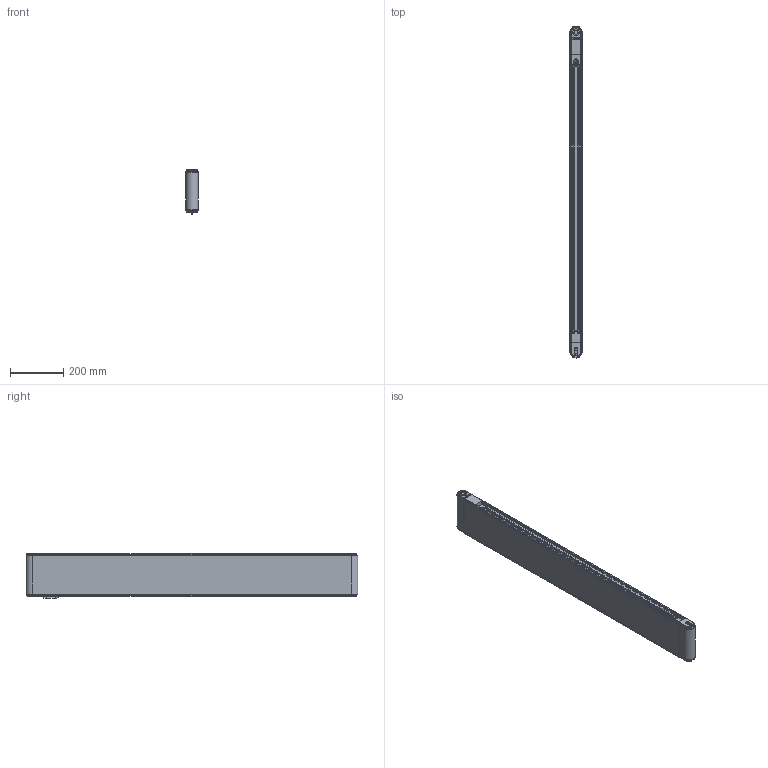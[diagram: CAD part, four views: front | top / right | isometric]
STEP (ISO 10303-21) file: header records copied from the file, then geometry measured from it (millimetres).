
FILE_DESCRIPTION(/* description */ (''),/* implementation_level */ '2;1');
FILE_NAME(/* name */ 'G:\DATEN\CAD\Förderband\Marketing\3D-Modelle (Standard)\FR-40-160\FR-40-160-1200-K.stp',/* time_stamp */ '2019-05-08T09:10:03+02:00',/* author */ ('melanie.ochs'),/* organization */ (''),/* preprocessor_version */ 'ST-DEVELOPER v17',/* originating_system */ 'Autodesk Inventor 2019',/* authorisation */ '');
FILE_SCHEMA (('CONFIG_CONTROL_DESIGN'));
Length unit declared in the file: centimetre
Products named in the file (1): FR-40-160-1200-K
Bounding box: 46.6 x 1246.6 x 168.53 mm (x, y, z)
Volume: 2837783.3 mm3; surface area: 1428119.7 mm2
Topology: 6 solids, 25 shells, 1014 faces, 2772 edges, 1849 vertices
Faces by surface type: plane 517, cylinder 282, bspline 122, cone 68, torus 25
Full cylindrical faces by diameter (mm): 2 x2, 4 x6, 4.3 x4, 4.917 x1, 5 x11, 5.5 x8, 6 x4, 6.5 x1, 6.647 x3, 8 x4, 8.3 x10, 8.5 x8, 8.773 x1, 10 x1, 11 x1, 12 x5, 15 x2, 20 x4, 25 x2, 28 x4
Entity records: 34624 total; most frequent: CARTESIAN_POINT 8195, ORIENTED_EDGE 5514, DIRECTION 5000, EDGE_CURVE 2757, VERTEX_POINT 1849, AXIS2_PLACEMENT_3D 1742, LINE 1516, VECTOR 1516
